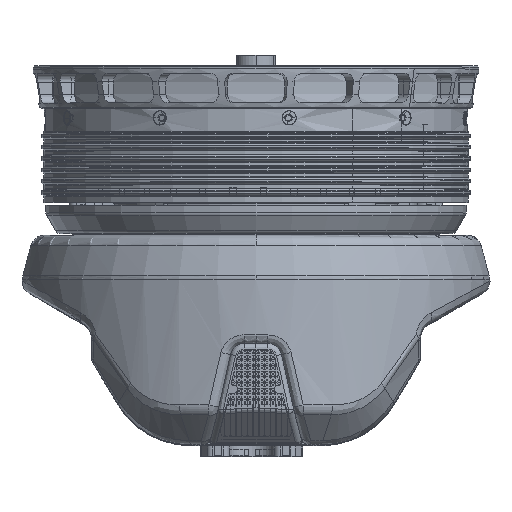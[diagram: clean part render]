
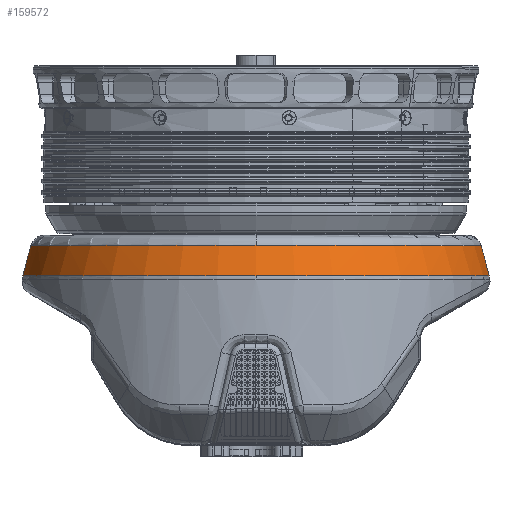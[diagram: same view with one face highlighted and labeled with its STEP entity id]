
A CAD part, top view. The second image highlights one B-rep face of the part: STEP entity #159572.
In plain terms, the highlighted conical face has half-angle 14.931 degrees and reference radius 78.5 mm.
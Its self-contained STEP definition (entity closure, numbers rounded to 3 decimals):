
#517 = CARTESIAN_POINT ( 'NONE',  ( 59.408, -68.688, -52.93 ) ) ;
#1653 = VERTEX_POINT ( 'NONE', #66533 ) ;
#4044 = DIRECTION ( 'NONE',  ( 0., -1., 0. ) ) ;
#7730 = CARTESIAN_POINT ( 'NONE',  ( -59.476, -74.735, -55.246 ) ) ;
#10306 = CIRCLE ( 'NONE', #37159, 82.331 ) ;
#11616 = CARTESIAN_POINT ( 'NONE',  ( 59.508, -77.767, -56.382 ) ) ;
#12713 = EDGE_LOOP ( 'NONE', ( #67583, #31084, #153486, #133745, #142719, #104830, #165073, #125658 ) ) ;
#13308 = DIRECTION ( 'NONE',  ( 0., 1., 0. ) ) ;
#14572 = VERTEX_POINT ( 'NONE', #127403 ) ;
#22654 = CARTESIAN_POINT ( 'NONE',  ( 0., -77.767, 0.514 ) ) ;
#30358 = CARTESIAN_POINT ( 'NONE',  ( 59.508, -77.767, -56.382 ) ) ;
#31084 = ORIENTED_EDGE ( 'NONE', *, *, #165091, .T. ) ;
#34486 = B_SPLINE_CURVE_WITH_KNOTS ( 'NONE', 3,
 ( #171920, #61720, #174636, #115003 ),
 .UNSPECIFIED., .F., .F.,
 ( 4, 4 ),
 ( 0., 0.002 ),
 .UNSPECIFIED. ) ;
#35304 = B_SPLINE_CURVE_WITH_KNOTS ( 'NONE', 3,
 ( #119785, #176726, #7730, #178551 ),
 .UNSPECIFIED., .F., .F.,
 ( 4, 4 ),
 ( 0., 0.01 ),
 .UNSPECIFIED. ) ;
#37159 = AXIS2_PLACEMENT_3D ( 'NONE', #22654, #92711, #162751 ) ;
#41309 = DIRECTION ( 'NONE',  ( 0., -1., 0. ) ) ;
#42236 = EDGE_CURVE ( 'NONE', #14572, #109543, #130531, .T. ) ;
#43544 = AXIS2_PLACEMENT_3D ( 'NONE', #61073, #47083, #118021 ) ;
#47083 = DIRECTION ( 'NONE',  ( 0., -1., 0. ) ) ;
#48359 = CARTESIAN_POINT ( 'NONE',  ( -59.259, -67.112, -52.467 ) ) ;
#50541 = CARTESIAN_POINT ( 'NONE',  ( 59.408, -68.688, -52.93 ) ) ;
#53519 = VERTEX_POINT ( 'NONE', #99948 ) ;
#56522 = CARTESIAN_POINT ( 'NONE',  ( 0., -67.112, 80.004 ) ) ;
#59809 = B_SPLINE_CURVE_WITH_KNOTS ( 'NONE', 3,
 ( #30358, #145122, #128377, #517 ),
 .UNSPECIFIED., .F., .F.,
 ( 4, 4 ),
 ( 0., 0.01 ),
 .UNSPECIFIED. ) ;
#61073 = CARTESIAN_POINT ( 'NONE',  ( 0., -67.112, 0.514 ) ) ;
#61720 = CARTESIAN_POINT ( 'NONE',  ( -59.355, -67.647, -52.574 ) ) ;
#66533 = CARTESIAN_POINT ( 'NONE',  ( 0., -77.767, 82.845 ) ) ;
#67583 = ORIENTED_EDGE ( 'NONE', *, *, #166949, .T. ) ;
#71771 = VERTEX_POINT ( 'NONE', #98409 ) ;
#74767 = CARTESIAN_POINT ( 'NONE',  ( 59.259, -67.112, -52.467 ) ) ;
#78259 = VERTEX_POINT ( 'NONE', #56522 ) ;
#82114 = EDGE_CURVE ( 'NONE', #71771, #1653, #117699, .T. ) ;
#83684 = AXIS2_PLACEMENT_3D ( 'NONE', #129653, #41309, #101635 ) ;
#87773 = CIRCLE ( 'NONE', #117613, 79.49 ) ;
#92711 = DIRECTION ( 'NONE',  ( 0., 1., 0. ) ) ;
#93129 = VERTEX_POINT ( 'NONE', #48359 ) ;
#98409 = CARTESIAN_POINT ( 'NONE',  ( -59.508, -77.767, -56.382 ) ) ;
#99948 = CARTESIAN_POINT ( 'NONE',  ( -59.408, -68.688, -52.93 ) ) ;
#101635 = DIRECTION ( 'NONE',  ( 0., 0., -1. ) ) ;
#104830 = ORIENTED_EDGE ( 'NONE', *, *, #165242, .T. ) ;
#106668 = EDGE_CURVE ( 'NONE', #148833, #14572, #59809, .T. ) ;
#109543 = VERTEX_POINT ( 'NONE', #74767 ) ;
#110448 = DIRECTION ( 'NONE',  ( 0., 0., -1. ) ) ;
#111742 = AXIS2_PLACEMENT_3D ( 'NONE', #141204, #13308, #110448 ) ;
#115003 = CARTESIAN_POINT ( 'NONE',  ( -59.408, -68.688, -52.93 ) ) ;
#115683 = FACE_OUTER_BOUND ( 'NONE', #12713, .T. ) ;
#117051 = CARTESIAN_POINT ( 'NONE',  ( 0., -67.112, 0.514 ) ) ;
#117613 = AXIS2_PLACEMENT_3D ( 'NONE', #117051, #4044, #173951 ) ;
#117699 = CIRCLE ( 'NONE', #111742, 82.331 ) ;
#118021 = DIRECTION ( 'NONE',  ( 0., 0., 1. ) ) ;
#119785 = CARTESIAN_POINT ( 'NONE',  ( -59.408, -68.688, -52.93 ) ) ;
#125115 = CARTESIAN_POINT ( 'NONE',  ( 59.402, -68.172, -52.731 ) ) ;
#125658 = ORIENTED_EDGE ( 'NONE', *, *, #42236, .T. ) ;
#126986 = EDGE_CURVE ( 'NONE', #93129, #53519, #34486, .T. ) ;
#127403 = CARTESIAN_POINT ( 'NONE',  ( 59.408, -68.688, -52.93 ) ) ;
#128377 = CARTESIAN_POINT ( 'NONE',  ( 59.442, -71.709, -54.096 ) ) ;
#129653 = CARTESIAN_POINT ( 'NONE',  ( 0., -63.4, 0.514 ) ) ;
#130531 = B_SPLINE_CURVE_WITH_KNOTS ( 'NONE', 3,
 ( #50541, #125115, #181121, #153152 ),
 .UNSPECIFIED., .F., .F.,
 ( 4, 4 ),
 ( 0., 0.002 ),
 .UNSPECIFIED. ) ;
#133745 = ORIENTED_EDGE ( 'NONE', *, *, #154799, .T. ) ;
#141204 = CARTESIAN_POINT ( 'NONE',  ( 0., -77.767, 0.514 ) ) ;
#142719 = ORIENTED_EDGE ( 'NONE', *, *, #82114, .T. ) ;
#145122 = CARTESIAN_POINT ( 'NONE',  ( 59.476, -74.735, -55.246 ) ) ;
#148833 = VERTEX_POINT ( 'NONE', #11616 ) ;
#153152 = CARTESIAN_POINT ( 'NONE',  ( 59.259, -67.112, -52.467 ) ) ;
#153486 = ORIENTED_EDGE ( 'NONE', *, *, #126986, .T. ) ;
#154799 = EDGE_CURVE ( 'NONE', #53519, #71771, #35304, .T. ) ;
#156786 = CIRCLE ( 'NONE', #43544, 79.49 ) ;
#159572 = ADVANCED_FACE ( 'NONE', ( #115683 ), #167057, .T. ) ;
#162751 = DIRECTION ( 'NONE',  ( 0., 0., -1. ) ) ;
#165073 = ORIENTED_EDGE ( 'NONE', *, *, #106668, .T. ) ;
#165091 = EDGE_CURVE ( 'NONE', #78259, #93129, #87773, .T. ) ;
#165242 = EDGE_CURVE ( 'NONE', #1653, #148833, #10306, .T. ) ;
#166949 = EDGE_CURVE ( 'NONE', #109543, #78259, #156786, .T. ) ;
#167057 = CONICAL_SURFACE ( 'NONE', #83684, 78.5, 0.261 ) ;
#171920 = CARTESIAN_POINT ( 'NONE',  ( -59.259, -67.112, -52.467 ) ) ;
#173951 = DIRECTION ( 'NONE',  ( 0., 0., 1. ) ) ;
#174636 = CARTESIAN_POINT ( 'NONE',  ( -59.402, -68.172, -52.731 ) ) ;
#176726 = CARTESIAN_POINT ( 'NONE',  ( -59.442, -71.709, -54.096 ) ) ;
#178551 = CARTESIAN_POINT ( 'NONE',  ( -59.508, -77.767, -56.382 ) ) ;
#181121 = CARTESIAN_POINT ( 'NONE',  ( 59.355, -67.647, -52.574 ) ) ;
